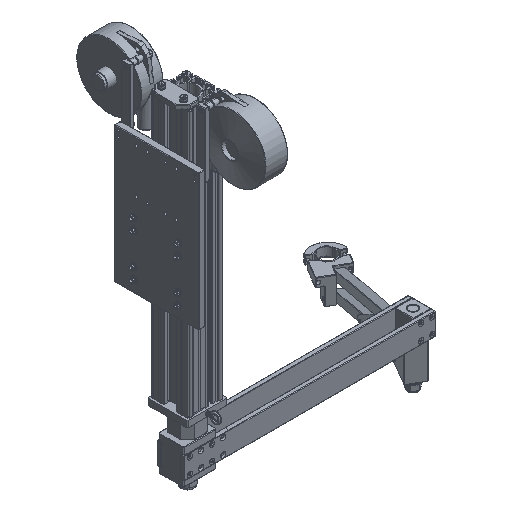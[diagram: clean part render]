
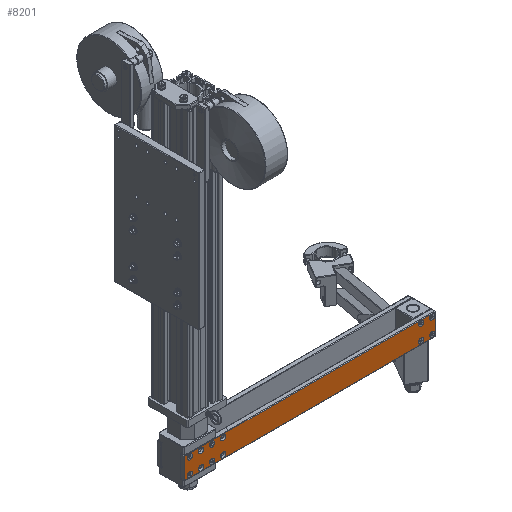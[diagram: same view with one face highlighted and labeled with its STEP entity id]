
A CAD part, isometric view. The second image highlights one B-rep face of the part: STEP entity #8201.
In plain terms, the highlighted planar face has unit normal (0, -1, 0) as drawn and (0, 0, -1) by its records, which use the part's own axes.
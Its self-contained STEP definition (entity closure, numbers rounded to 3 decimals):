
#8201 = ADVANCED_FACE( '', ( #16580, #16581, #16582, #16583, #16584, #16585, #16586, #16587, #16588, #16589, #16590, #16591, #16592 ), #16593, .F. );
#16580 = FACE_OUTER_BOUND( '', #26245, .T. );
#16581 = FACE_BOUND( '', #26246, .T. );
#16582 = FACE_BOUND( '', #26247, .T. );
#16583 = FACE_BOUND( '', #26248, .T. );
#16584 = FACE_BOUND( '', #26249, .T. );
#16585 = FACE_BOUND( '', #26250, .T. );
#16586 = FACE_BOUND( '', #26251, .T. );
#16587 = FACE_BOUND( '', #26252, .T. );
#16588 = FACE_BOUND( '', #26253, .T. );
#16589 = FACE_BOUND( '', #26254, .T. );
#16590 = FACE_BOUND( '', #26255, .T. );
#16591 = FACE_BOUND( '', #26256, .T. );
#16592 = FACE_BOUND( '', #26257, .T. );
#16593 = PLANE( '', #26258 );
#26245 = EDGE_LOOP( '', ( #44589, #44590, #44591, #44592 ) );
#26246 = EDGE_LOOP( '', ( #44593 ) );
#26247 = EDGE_LOOP( '', ( #44594 ) );
#26248 = EDGE_LOOP( '', ( #44595 ) );
#26249 = EDGE_LOOP( '', ( #44596 ) );
#26250 = EDGE_LOOP( '', ( #44597 ) );
#26251 = EDGE_LOOP( '', ( #44598 ) );
#26252 = EDGE_LOOP( '', ( #44599 ) );
#26253 = EDGE_LOOP( '', ( #44600 ) );
#26254 = EDGE_LOOP( '', ( #44601 ) );
#26255 = EDGE_LOOP( '', ( #44602 ) );
#26256 = EDGE_LOOP( '', ( #44603 ) );
#26257 = EDGE_LOOP( '', ( #44604 ) );
#26258 = AXIS2_PLACEMENT_3D( '', #44605, #44606, #44607 );
#44589 = ORIENTED_EDGE( '', *, *, #59114, .T. );
#44590 = ORIENTED_EDGE( '', *, *, #57777, .T. );
#44591 = ORIENTED_EDGE( '', *, *, #55729, .T. );
#44592 = ORIENTED_EDGE( '', *, *, #55869, .T. );
#44593 = ORIENTED_EDGE( '', *, *, #52872, .T. );
#44594 = ORIENTED_EDGE( '', *, *, #59115, .T. );
#44595 = ORIENTED_EDGE( '', *, *, #53966, .T. );
#44596 = ORIENTED_EDGE( '', *, *, #58351, .T. );
#44597 = ORIENTED_EDGE( '', *, *, #57970, .T. );
#44598 = ORIENTED_EDGE( '', *, *, #59039, .T. );
#44599 = ORIENTED_EDGE( '', *, *, #56161, .T. );
#44600 = ORIENTED_EDGE( '', *, *, #58244, .T. );
#44601 = ORIENTED_EDGE( '', *, *, #57696, .T. );
#44602 = ORIENTED_EDGE( '', *, *, #55262, .T. );
#44603 = ORIENTED_EDGE( '', *, *, #59116, .T. );
#44604 = ORIENTED_EDGE( '', *, *, #59117, .T. );
#44605 = CARTESIAN_POINT( '', ( -71.611, 8.951, -10. ) );
#44606 = DIRECTION( '', ( 0., 0., 1. ) );
#44607 = DIRECTION( '', ( 1., 0., 0. ) );
#52872 = EDGE_CURVE( '', #62119, #62119, #62120, .T. );
#53966 = EDGE_CURVE( '', #63995, #63995, #63996, .T. );
#55262 = EDGE_CURVE( '', #66101, #66101, #66102, .T. );
#55729 = EDGE_CURVE( '', #66836, #66834, #66837, .T. );
#55869 = EDGE_CURVE( '', #66834, #67042, #67044, .T. );
#56161 = EDGE_CURVE( '', #67492, #67492, #67493, .T. );
#57696 = EDGE_CURVE( '', #69684, #69684, #69685, .T. );
#57777 = EDGE_CURVE( '', #69791, #66836, #69792, .T. );
#57970 = EDGE_CURVE( '', #70067, #70067, #70068, .T. );
#58244 = EDGE_CURVE( '', #70422, #70422, #70423, .T. );
#58351 = EDGE_CURVE( '', #70568, #70568, #70569, .T. );
#59039 = EDGE_CURVE( '', #71445, #71445, #71446, .T. );
#59114 = EDGE_CURVE( '', #67042, #69791, #71531, .T. );
#59115 = EDGE_CURVE( '', #71532, #71532, #71533, .T. );
#59116 = EDGE_CURVE( '', #71534, #71534, #71535, .T. );
#59117 = EDGE_CURVE( '', #71536, #71536, #71537, .T. );
#62119 = VERTEX_POINT( '', #75438 );
#62120 = CIRCLE( '', #75439, 5.75 );
#63995 = VERTEX_POINT( '', #78803 );
#63996 = CIRCLE( '', #78804, 5.75 );
#66101 = VERTEX_POINT( '', #82333 );
#66102 = CIRCLE( '', #82334, 5.75 );
#66834 = VERTEX_POINT( '', #83923 );
#66836 = VERTEX_POINT( '', #83926 );
#66837 = LINE( '', #83927, #83928 );
#67042 = VERTEX_POINT( '', #84278 );
#67044 = LINE( '', #84281, #84282 );
#67492 = VERTEX_POINT( '', #85014 );
#67493 = CIRCLE( '', #85015, 5.75 );
#69684 = VERTEX_POINT( '', #88602 );
#69685 = CIRCLE( '', #88603, 5.75 );
#69791 = VERTEX_POINT( '', #88785 );
#69792 = LINE( '', #88786, #88787 );
#70067 = VERTEX_POINT( '', #89201 );
#70068 = CIRCLE( '', #89202, 5.75 );
#70422 = VERTEX_POINT( '', #89781 );
#70423 = CIRCLE( '', #89782, 5.75 );
#70568 = VERTEX_POINT( '', #89988 );
#70569 = CIRCLE( '', #89989, 5.75 );
#71445 = VERTEX_POINT( '', #91492 );
#71446 = CIRCLE( '', #91493, 5.75 );
#71531 = LINE( '', #91627, #91628 );
#71532 = VERTEX_POINT( '', #91629 );
#71533 = CIRCLE( '', #91630, 5.75 );
#71534 = VERTEX_POINT( '', #91631 );
#71535 = CIRCLE( '', #91632, 5.75 );
#71536 = VERTEX_POINT( '', #91633 );
#71537 = CIRCLE( '', #91634, 5.75 );
#75438 = CARTESIAN_POINT( '', ( 405.889, 45.201, -10. ) );
#75439 = AXIS2_PLACEMENT_3D( '', #95379, #95380, #95381 );
#78803 = CARTESIAN_POINT( '', ( 430.889, 45.201, -10. ) );
#78804 = AXIS2_PLACEMENT_3D( '', #96615, #96616, #96617 );
#82333 = CARTESIAN_POINT( '', ( -39.111, 45.201, -10. ) );
#82334 = AXIS2_PLACEMENT_3D( '', #98098, #98099, #98100 );
#83923 = CARTESIAN_POINT( '', ( 492.389, 57.951, -10. ) );
#83926 = CARTESIAN_POINT( '', ( -70.611, 57.951, -10. ) );
#83927 = CARTESIAN_POINT( '', ( 493.389, 57.951, -10. ) );
#83928 = VECTOR( '', #98581, 1000. );
#84278 = CARTESIAN_POINT( '', ( 492.389, 9.951, -10. ) );
#84281 = CARTESIAN_POINT( '', ( 492.389, 8.951, -10. ) );
#84282 = VECTOR( '', #98710, 1000. );
#85014 = CARTESIAN_POINT( '', ( 480.889, 45.201, -10. ) );
#85015 = AXIS2_PLACEMENT_3D( '', #99028, #99029, #99030 );
#88602 = CARTESIAN_POINT( '', ( -39.111, 11.201, -10. ) );
#88603 = AXIS2_PLACEMENT_3D( '', #100611, #100612, #100613 );
#88785 = CARTESIAN_POINT( '', ( -70.611, 9.951, -10. ) );
#88786 = CARTESIAN_POINT( '', ( -70.611, 58.951, -10. ) );
#88787 = VECTOR( '', #100675, 1000. );
#89201 = CARTESIAN_POINT( '', ( 455.889, 45.201, -10. ) );
#89202 = AXIS2_PLACEMENT_3D( '', #100907, #100908, #100909 );
#89781 = CARTESIAN_POINT( '', ( 480.889, 11.201, -10. ) );
#89782 = AXIS2_PLACEMENT_3D( '', #101161, #101162, #101163 );
#89988 = CARTESIAN_POINT( '', ( 430.889, 11.201, -10. ) );
#89989 = AXIS2_PLACEMENT_3D( '', #101270, #101271, #101272 );
#91492 = CARTESIAN_POINT( '', ( 455.889, 11.201, -10. ) );
#91493 = AXIS2_PLACEMENT_3D( '', #101884, #101885, #101886 );
#91627 = CARTESIAN_POINT( '', ( -71.611, 9.951, -10. ) );
#91628 = VECTOR( '', #101945, 1000. );
#91629 = CARTESIAN_POINT( '', ( 405.889, 11.201, -10. ) );
#91630 = AXIS2_PLACEMENT_3D( '', #101946, #101947, #101948 );
#91631 = CARTESIAN_POINT( '', ( -64.111, 45.201, -10. ) );
#91632 = AXIS2_PLACEMENT_3D( '', #101949, #101950, #101951 );
#91633 = CARTESIAN_POINT( '', ( -64.111, 11.201, -10. ) );
#91634 = AXIS2_PLACEMENT_3D( '', #101952, #101953, #101954 );
#95379 = CARTESIAN_POINT( '', ( 405.889, 50.951, -10. ) );
#95380 = DIRECTION( '', ( 0., 0., 1. ) );
#95381 = DIRECTION( '', ( 0., -1., 0. ) );
#96615 = CARTESIAN_POINT( '', ( 430.889, 50.951, -10. ) );
#96616 = DIRECTION( '', ( 0., 0., 1. ) );
#96617 = DIRECTION( '', ( 0., -1., 0. ) );
#98098 = CARTESIAN_POINT( '', ( -39.111, 50.951, -10. ) );
#98099 = DIRECTION( '', ( 0., 0., 1. ) );
#98100 = DIRECTION( '', ( 0., -1., 0. ) );
#98581 = DIRECTION( '', ( 1., 0., 0. ) );
#98710 = DIRECTION( '', ( 0., -1., 0. ) );
#99028 = CARTESIAN_POINT( '', ( 480.889, 50.951, -10. ) );
#99029 = DIRECTION( '', ( 0., 0., 1. ) );
#99030 = DIRECTION( '', ( 0., -1., 0. ) );
#100611 = CARTESIAN_POINT( '', ( -39.111, 16.951, -10. ) );
#100612 = DIRECTION( '', ( 0., 0., 1. ) );
#100613 = DIRECTION( '', ( 0., -1., 0. ) );
#100675 = DIRECTION( '', ( 0., 1., 0. ) );
#100907 = CARTESIAN_POINT( '', ( 455.889, 50.951, -10. ) );
#100908 = DIRECTION( '', ( 0., 0., 1. ) );
#100909 = DIRECTION( '', ( 0., -1., 0. ) );
#101161 = CARTESIAN_POINT( '', ( 480.889, 16.951, -10. ) );
#101162 = DIRECTION( '', ( 0., 0., 1. ) );
#101163 = DIRECTION( '', ( 0., -1., 0. ) );
#101270 = CARTESIAN_POINT( '', ( 430.889, 16.951, -10. ) );
#101271 = DIRECTION( '', ( 0., 0., 1. ) );
#101272 = DIRECTION( '', ( 0., -1., 0. ) );
#101884 = CARTESIAN_POINT( '', ( 455.889, 16.951, -10. ) );
#101885 = DIRECTION( '', ( 0., 0., 1. ) );
#101886 = DIRECTION( '', ( 0., -1., 0. ) );
#101945 = DIRECTION( '', ( -1., 0., 0. ) );
#101946 = CARTESIAN_POINT( '', ( 405.889, 16.951, -10. ) );
#101947 = DIRECTION( '', ( 0., 0., 1. ) );
#101948 = DIRECTION( '', ( 0., -1., 0. ) );
#101949 = CARTESIAN_POINT( '', ( -64.111, 50.951, -10. ) );
#101950 = DIRECTION( '', ( 0., 0., 1. ) );
#101951 = DIRECTION( '', ( 0., -1., 0. ) );
#101952 = CARTESIAN_POINT( '', ( -64.111, 16.951, -10. ) );
#101953 = DIRECTION( '', ( 0., 0., 1. ) );
#101954 = DIRECTION( '', ( 0., -1., 0. ) );
